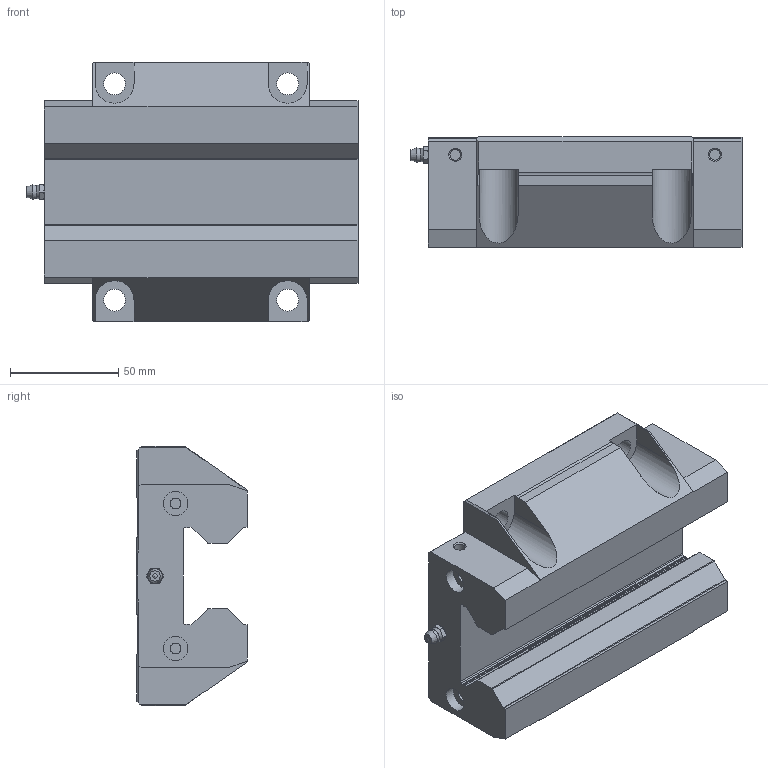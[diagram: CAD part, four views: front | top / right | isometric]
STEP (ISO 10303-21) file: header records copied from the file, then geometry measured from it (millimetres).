
FILE_DESCRIPTION(/* description */ ('STEP AP214'),/* implementation_level */ '2;1');
FILE_NAME(/* name */ 'ERG45P6CC1N0______CAD_NO_(A-MT61)',/* time_stamp */ '2026-05-18T11:16:43+02:00',/* author */ ('License CC BY-ND 4.0'),/* organization */ ('CADENAS'),/* preprocessor_version */ 'ST-DEVELOPER v20',/* originating_system */ 'PARTsolutions',/* authorisation */ ' ');
FILE_SCHEMA (('AUTOMOTIVE_DESIGN {1 0 10303 214 3 1 1}'));
Length unit declared in the file: millimetre
Products named in the file (3): ERG45P6CC1N0______CAD_NO_(A-MT61); ERG45C01 Slider; hsr_ftht_A-M6F_grease_nipple_joint
Assembly tree (2 placements, depth 2):
  ERG45P6CC1N0______CAD_NO_(A-MT61)
    ERG45C01 Slider
    hsr_ftht_A-M6F_grease_nipple_joint
Bounding box: 153.41 x 51 x 120 mm (x, y, z)
Volume: 549222.1 mm3; surface area: 69917.5 mm2
Topology: 2 solids, 2 shells, 184 faces, 465 edges, 304 vertices
Faces by surface type: plane 109, cylinder 51, cone 21, sphere 2, torus 1
Full cylindrical faces by diameter (mm): 4.917 x6, 5 x4, 6 x1, 10.106 x6, 10.2 x2, 11.3 x4
Entity records: 5387 total; most frequent: CARTESIAN_POINT 981, DIRECTION 896, ORIENTED_EDGE 840, EDGE_CURVE 420, AXIS2_PLACEMENT_3D 313, VERTEX_POINT 300, LINE 270, VECTOR 270
